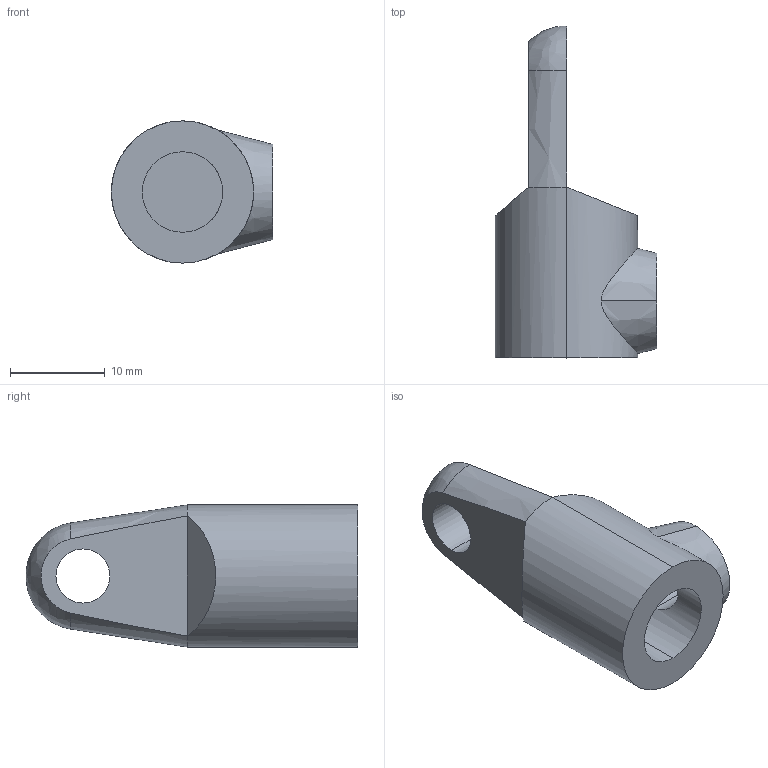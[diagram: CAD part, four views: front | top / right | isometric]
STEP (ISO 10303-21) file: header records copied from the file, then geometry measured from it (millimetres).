
FILE_DESCRIPTION (( 'STEP AP214' ), '1' );
FILE_NAME ('1C.904.050.STEP', '2011-03-09T11:00:01', ( 'Techniczny' ), ( 'RST ROZTOCZE' ), 'SwSTEP 2.0', 'SolidWorks 2010', '' );
FILE_SCHEMA (( 'AUTOMOTIVE_DESIGN' ));
Length unit declared in the file: millimetre
Products named in the file (1): 1C.904.050
Bounding box: 17 x 35 x 15 mm (x, y, z)
Volume: 3001.6 mm3; surface area: 2126.5 mm2
Topology: 1 solids, 1 shells, 20 faces, 44 edges, 27 vertices
Faces by surface type: cylinder 8, plane 7, cone 4, bspline 1
Entity records: 797 total; most frequent: CARTESIAN_POINT 304, DIRECTION 92, ORIENTED_EDGE 86, EDGE_CURVE 43, AXIS2_PLACEMENT_3D 39, VERTEX_POINT 27, EDGE_LOOP 26, ADVANCED_FACE 20
